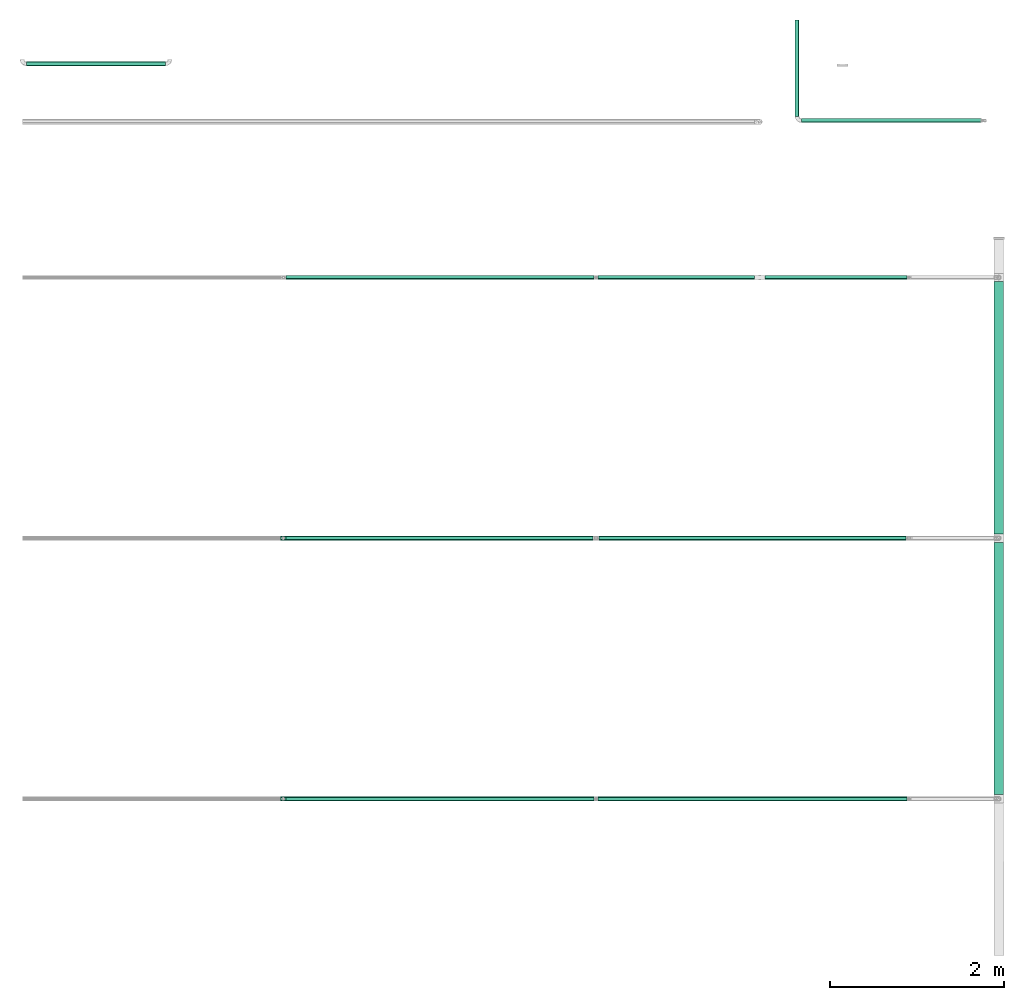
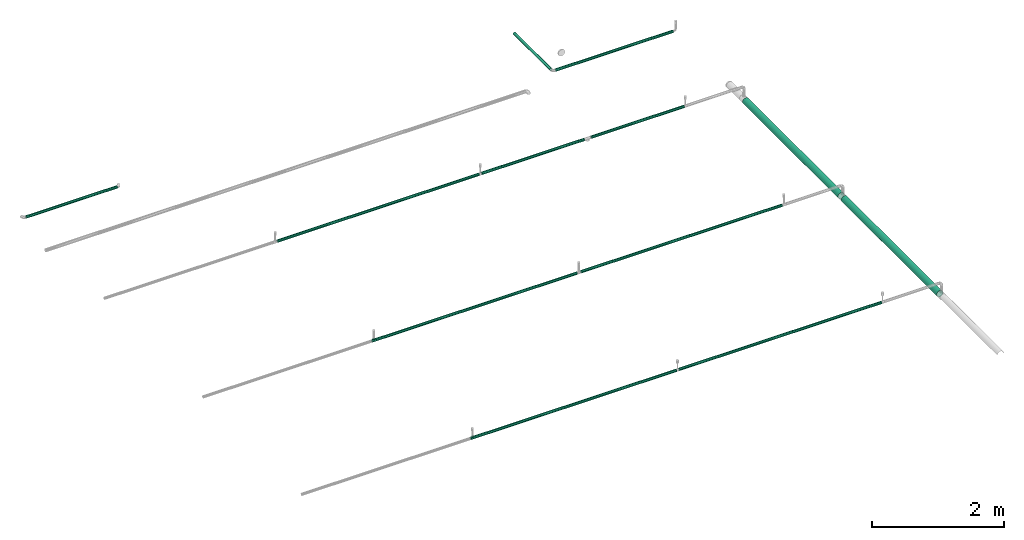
# One storey, part 1 of 14: 12 flow segments, 2 flow fittings.
"""IFC2X3 building model written with IfcOpenShell, lengths in millimetres."""

from ifc_helpers import new_model, entity, si_unit, converted_unit, derived_unit, direction, frame, origin_with_axes, origin_2d_with_axis, place, context, subcontext, project, spatial, hollow_circle, extrude, open_shell, surface_model, source, transform, mapped, type_object, element, save


model = new_model("IFC2X3")

# Units and contexts
model_context = context("Model", 3, precision=0.01, world=frame((0.0, 4.29681676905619e-09, 0.0)), true_north=direction((4.01073788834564e-13, 1.0)))
plan_context = context("Plan", 3, precision=0.01, world=frame((0.0, 4.29681676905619e-09, 0.0)), true_north=direction((4.01073788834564e-13, 1.0)))
body_context = subcontext(model_context, "Body", "Model", "MODEL_VIEW")
ifc_project = project(units=[converted_unit("PLANEANGLEUNIT", "DEGREE", entity("IfcPositiveLengthMeasure", 0.0174532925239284), si_unit("PLANEANGLEUNIT", "RADIAN"), dimensions=[0, 0, 0, 0, 0, 0, 0]), si_unit("AREAUNIT", "SQUARE_METRE"), si_unit("LENGTHUNIT", "METRE", prefix="MILLI"), si_unit("MASSUNIT", "GRAM", prefix="KILO"), si_unit("POWERUNIT", "WATT"), si_unit("PRESSUREUNIT", "PASCAL"), si_unit("FORCEUNIT", "NEWTON", prefix="KILO"), si_unit("ELECTRICVOLTAGEUNIT", "VOLT"), si_unit("ELECTRICCURRENTUNIT", "AMPERE"), si_unit("THERMODYNAMICTEMPERATUREUNIT", "DEGREE_CELSIUS"), si_unit("TIMEUNIT", "SECOND"), si_unit("VOLUMEUNIT", "CUBIC_METRE"), derived_unit("LINEARVELOCITYUNIT", [(si_unit("LENGTHUNIT", "METRE"), 1), (si_unit("TIMEUNIT", "SECOND"), -1)]), derived_unit("VOLUMETRICFLOWRATEUNIT", [(si_unit("VOLUMEUNIT", "CUBIC_METRE"), 1), (si_unit("TIMEUNIT", "SECOND"), -1)]), derived_unit("THERMALTRANSMITTANCEUNIT", [(si_unit("POWERUNIT", "WATT"), 1), (si_unit("THERMODYNAMICTEMPERATUREUNIT", "KELVIN"), -1), (si_unit("AREAUNIT", "SQUARE_METRE"), -1)]), derived_unit("SOUNDPRESSUREUNIT", [(si_unit("PRESSUREUNIT", "PASCAL"), 1)])], contexts=[model_context, plan_context])

# Site, building, storey
site_placement = place(None, frame((0.0, -4.29681676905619e-09, 0.0), z_axis=(0.0, 0.0, 1.0), x_axis=(1.0, 0.0, 0.0)))
site = spatial("IfcSite", under=ifc_project, at=site_placement, CompositionType="ELEMENT")
building_placement = place(site_placement, frame((0.0, 4.29681676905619e-09, 0.0), z_axis=(0.0, 0.0, 1.0), x_axis=(1.0, 0.0, 0.0)))
building = spatial("IfcBuilding", under=site, at=building_placement, Name="mc-building", CompositionType="ELEMENT")
storey_placement = place(building_placement, frame((0.0, 0.0, 204000.0), z_axis=(0.0, 0.0, 1.0), x_axis=(1.0, 0.0, 0.0)))
storey = spatial("IfcBuildingStorey", under=building, at=storey_placement, Name="Nivå D", CompositionType="ELEMENT", Elevation=204000.0)

# Flow fittings
pipe_fitting_type = type_object("IfcPipeFittingType", Name="magi_pipe_fe_tee_centric_90_NOR", PredefinedType="JUNCTION")
shared_shape_1 = source(origin_with_axes(), body_context, "Body", "SurfaceModel", [
    surface_model("IfcShellBasedSurfaceModel", [(-33.8, 0.0, -24.2), (-33.8, -6.26342, -23.37541), (-33.8, 6.26342, -23.37541), (-33.8, 12.1, -20.95781), (-33.8, 17.11198, -17.11198), (-33.8, 20.95781, -12.1), (-33.8, -23.37541, -6.26342), (-33.8, 23.37541, -6.26342), (-33.8, -17.11198, -17.11198), (-33.8, -20.95781, -12.1), (-33.8, -12.1, -20.95781), (-33.8, -24.2, 0.0), (-33.8, -23.37541, 6.26342), (-33.8, 20.95781, 12.1), (-33.8, 23.37541, 6.26342), (-33.8, 24.2, 0.0), (-33.8, 12.1, 20.95781), (-33.8, 17.11198, 17.11198), (-33.8, -17.11198, 17.11198), (-33.8, 6.26342, 23.37541), (-33.8, -20.95781, 12.1), (-33.8, -12.1, 20.95781), (-33.8, -6.26342, 23.37541), (-33.8, 0.0, 24.2), (33.8, 6.26342, -23.37541), (33.8, -6.26342, -23.37541), (33.8, 0.0, -24.2), (33.8, 17.11198, -17.11198), (33.8, 12.1, -20.95781), (33.8, -23.37541, -6.26342), (33.8, 20.95781, -12.1), (33.8, 23.37541, -6.26342), (33.8, -17.11198, -17.11198), (33.8, -12.1, -20.95781), (33.8, -20.95781, -12.1), (33.8, -24.2, 0.0), (33.8, 24.2, 0.0), (33.8, 23.37541, 6.26342), (33.8, 20.95781, 12.1), (33.8, -23.37541, 6.26342), (33.8, -17.11198, 17.11198), (33.8, 12.1, 20.95781), (33.8, 17.11198, 17.11198), (33.8, 6.26342, 23.37541), (33.8, -20.95781, 12.1), (33.8, -12.1, 20.95781), (33.8, 0.0, 24.2), (33.8, -6.26342, 23.37541), (15.81824, -23.45734, 5.94922), (16.9, -24.2, 0.0), (12.87025, -21.57947, 10.95293), (33.8, -19.0349, 14.60599), (8.52813, -19.30697, 14.59044), (3.03527, -17.5853, 16.6252), (-3.04044, -17.58619, 16.62425), (-8.52961, -19.30762, 14.58958), (-33.8, -19.0349, 14.60599), (-16.9, -24.2, 0.0), (-15.81885, -23.45775, 5.9476), (-12.87368, -21.58151, 10.9489), (3.03527, -17.5853, -16.6252), (33.8, -19.0349, -14.60599), (8.52813, -19.30697, -14.59044), (-8.52961, -19.30762, -14.58958), (-33.8, -19.0349, -14.60599), (12.87025, -21.57947, -10.95293), (-3.04044, -17.58619, -16.62425), (15.81824, -23.45734, -5.94922), (-12.87368, -21.58151, -10.9489), (-15.81885, -23.45775, -5.9476), (4.37404, -36.3, -16.32415), (-16.9, -36.3, 0.0), (0.0, -36.3, -16.9), (14.63583, -36.3, -8.45), (8.45, -36.3, -14.63583), (16.32415, -36.3, -4.37404), (11.9501, -36.3, -11.9501), (-11.9501, -36.3, -11.9501), (-8.45, -36.3, -14.63583), (-4.37404, -36.3, -16.32415), (-14.63583, -36.3, -8.45), (-16.32415, -36.3, -4.37404), (16.9, -36.3, 0.0), (8.45, -36.3, 14.63583), (16.32415, -36.3, 4.37404), (14.63583, -36.3, 8.45), (-8.45, -36.3, 14.63583), (11.9501, -36.3, 11.9501), (4.37404, -36.3, 16.32415), (-16.32415, -36.3, 4.37404), (-11.9501, -36.3, 11.9501), (-14.63583, -36.3, 8.45), (0.0, -36.3, 16.9), (-4.37404, -36.3, 16.32415), (-16.35943, -23.82888, 2.9738), (16.35912, -23.82867, 2.97461), (-0.00259, -17.58575, 16.62472), (16.35912, -23.82867, -2.97461), (-0.00259, -17.58575, -16.62472), (-16.35943, -23.82888, -2.9738)], [open_shell([[[0, 1, 2]], [[3, 2, 4]], [[5, 2, 6]], [[4, 2, 5]], [[7, 5, 6]], [[8, 9, 10]], [[1, 10, 9]], [[1, 9, 2]], [[9, 6, 2]], [[6, 11, 7]], [[11, 12, 7]], [[13, 14, 15]], [[13, 15, 12]], [[16, 17, 18]], [[12, 17, 13]], [[19, 16, 18]], [[20, 18, 12]], [[18, 17, 12]], [[21, 22, 18]], [[23, 18, 22]], [[18, 23, 19]], [[7, 12, 15]], [[24, 25, 26]], [[27, 24, 28]], [[29, 24, 30]], [[30, 24, 27]], [[29, 30, 31]], [[25, 32, 33]], [[32, 25, 34]], [[24, 34, 25]], [[24, 29, 34]], [[31, 35, 29]], [[31, 36, 35]], [[36, 37, 38]], [[39, 36, 38]], [[40, 38, 41]], [[41, 38, 42]], [[40, 41, 43]], [[39, 40, 44]], [[39, 38, 40]], [[45, 46, 47]], [[46, 45, 40]], [[43, 46, 40]], [[36, 39, 35]], [[35, 39, 48]], [[48, 49, 35]], [[39, 50, 48]], [[51, 40, 52]], [[52, 50, 44]], [[53, 52, 40]], [[54, 53, 21]], [[44, 50, 39]], [[55, 18, 56]], [[57, 58, 11]], [[12, 11, 58]], [[58, 59, 12]], [[55, 54, 18]], [[55, 20, 59]], [[20, 55, 56]], [[59, 20, 12]], [[18, 54, 21]], [[52, 44, 51]], [[53, 40, 45]], [[23, 47, 46]], [[22, 45, 47]], [[19, 46, 43]], [[38, 37, 14]], [[17, 41, 42]], [[13, 42, 38]], [[43, 41, 16]], [[15, 37, 36]], [[21, 45, 22]], [[22, 47, 23]], [[19, 23, 46]], [[43, 16, 19]], [[16, 41, 17]], [[13, 17, 42]], [[14, 13, 38]], [[37, 15, 14]], [[45, 21, 53]], [[5, 31, 30]], [[7, 36, 31]], [[4, 30, 27]], [[26, 25, 1]], [[2, 28, 24]], [[0, 24, 26]], [[27, 28, 3]], [[10, 25, 33]], [[15, 36, 7]], [[7, 31, 5]], [[4, 5, 30]], [[27, 3, 4]], [[3, 28, 2]], [[0, 2, 24]], [[1, 0, 26]], [[25, 10, 1]], [[33, 60, 10]], [[61, 34, 62]], [[63, 9, 64]], [[62, 60, 32]], [[34, 65, 62]], [[66, 10, 60]], [[29, 35, 67]], [[67, 65, 29]], [[49, 67, 35]], [[29, 65, 34]], [[66, 63, 8]], [[62, 32, 61]], [[64, 8, 63]], [[63, 68, 9]], [[8, 10, 66]], [[68, 69, 6]], [[69, 11, 6]], [[11, 69, 57]], [[68, 6, 9]], [[60, 33, 32]], [[70, 71, 72]], [[73, 70, 74]], [[73, 75, 70]], [[73, 74, 76]], [[71, 70, 75]], [[72, 77, 78]], [[78, 79, 72]], [[80, 71, 81]], [[77, 72, 80]], [[71, 80, 72]], [[75, 82, 71]], [[83, 82, 84]], [[83, 84, 85]], [[86, 71, 83]], [[83, 85, 87]], [[86, 83, 88]], [[89, 90, 91]], [[90, 89, 86]], [[86, 92, 93]], [[89, 71, 86]], [[88, 92, 86]], [[83, 71, 82]], [[89, 94, 71]], [[59, 91, 90]], [[89, 91, 58]], [[90, 86, 55]], [[89, 58, 94]], [[94, 57, 71]], [[58, 91, 59]], [[95, 48, 84]], [[55, 93, 54]], [[55, 59, 90]], [[92, 53, 96]], [[55, 86, 93]], [[53, 92, 88]], [[83, 52, 88]], [[87, 85, 50]], [[87, 52, 83]], [[48, 85, 84]], [[87, 50, 52]], [[52, 53, 88]], [[82, 95, 84]], [[48, 50, 85]], [[95, 82, 49]], [[92, 54, 93]], [[96, 54, 92]], [[75, 97, 82]], [[65, 73, 76]], [[75, 73, 67]], [[76, 74, 62]], [[97, 49, 82]], [[67, 73, 65]], [[62, 70, 60]], [[62, 65, 76]], [[72, 66, 98]], [[62, 74, 70]], [[99, 71, 57]], [[99, 69, 81]], [[75, 67, 97]], [[79, 66, 72]], [[69, 80, 81]], [[77, 80, 68]], [[72, 60, 70]], [[79, 63, 66]], [[63, 79, 78]], [[78, 77, 63]], [[63, 77, 68]], [[68, 80, 69]], [[71, 99, 81]], [[98, 60, 72]]])]),
])
for number, where, z_axis, x_axis, name in (
    (1, (601000.0, 693802.46783, 6129.32644999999), (0.0, -1.0, 0.0), (-1.0, 0.0, 0.0), "magi_pipe_fe_tee_centric_90_NOR"),
    (2, (601000.0, 690802.46783, 6140.0), (0.0, -1.0, 0.0), (-1.0, 0.0, 0.0), "magi_pipe_fe_tee_centric_90_NOR"),
):
    element("IfcFlowFitting", number, at=place(storey_placement, frame(where, z_axis=z_axis, x_axis=x_axis)), inside=storey, type_object=pipe_fitting_type, Name=name, context=body_context, shape_type="MappedRepresentation", body=[
        mapped(shared_shape_1, transform((0.0, 0.0, 0.0), scale=1.0)),
    ])

# Flow segments
pipe_segment_type = type_object("IfcPipeSegmentType", Name="Stålrør normaltykke", PredefinedType="RIGIDSEGMENT")
shared_shape_2 = source(origin_with_axes(), body_context, "Body", "SweptSolid", [
    extrude(hollow_circle(Radius=24.1, WallThickness=2.0, at=origin_2d_with_axis()), frame((0.0, 0.0, 0.0), z_axis=(1.0, 0.0, 0.0), x_axis=(0.0, 1.0, 0.0)), (0.0, 0.0, 1.0), 1603.2),
])
flow_segment_1_placement = place(storey_placement, frame((598042.2, 699262.46783, 6142.65517000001), z_axis=(0.0, 0.0, 1.0), x_axis=(1.0, 0.0, 0.0)))
element("IfcFlowSegment", 3, at=flow_segment_1_placement, inside=storey, type_object=pipe_segment_type, Name="Stålrør normaltykke", context=body_context, shape_type="MappedRepresentation", body=[
    mapped(shared_shape_2, transform((0.0, 0.0, 0.0), scale=1.0)),
])
shared_shape_3 = source(origin_with_axes(), body_context, "Body", "SweptSolid", [
    extrude(hollow_circle(Radius=24.1, WallThickness=2.0, at=origin_2d_with_axis()), frame((0.0, 0.0, 0.0), z_axis=(1.0, 0.0, 0.0), x_axis=(0.0, 1.0, 0.0)), (0.0, 0.0, 1.0), 1802.3),
])
flow_segment_2_placement = place(storey_placement, frame((606423.67576, 696802.46783, 6140.0), z_axis=(0.0, 0.0, 1.0), x_axis=(-1.0, 0.0, 0.0)))
element("IfcFlowSegment", 4, at=flow_segment_2_placement, inside=storey, type_object=pipe_segment_type, Name="Stålrør normaltykke", context=body_context, shape_type="MappedRepresentation", body=[
    mapped(shared_shape_3, transform((0.0, 0.0, 0.0), scale=1.0)),
])
shared_shape_4 = source(origin_with_axes(), body_context, "Body", "SweptSolid", [
    extrude(hollow_circle(Radius=24.1, WallThickness=2.0, at=origin_2d_with_axis()), frame((0.0, 0.0, 0.0), z_axis=(1.0, 0.0, 0.0), x_axis=(0.0, 1.0, 0.0)), (0.0, 0.0, 1.0), 3544.8),
])
for number, where, z_axis, x_axis in (
    (5, (604578.6, 696802.46783, 6140.0), (0.0, 0.0, 1.0), (-1.0, 0.0, 0.0)),
    (6, (604578.6, 690802.46783, 6140.0), (0.0, 0.0, 1.0), (-1.0, 0.0, 0.0)),
):
    element("IfcFlowSegment", number, at=place(storey_placement, frame(where, z_axis=z_axis, x_axis=x_axis)), inside=storey, type_object=pipe_segment_type, Name="Stålrør normaltykke", context=body_context, shape_type="MappedRepresentation", body=[
        mapped(shared_shape_4, transform((0.0, 0.0, 0.0), scale=1.0)),
    ])
shared_shape_5 = source(origin_with_axes(), body_context, "Body", "SweptSolid", [
    extrude(hollow_circle(Radius=24.1, WallThickness=2.0, at=origin_2d_with_axis()), frame((0.0, 0.0, 0.0), z_axis=(1.0, 0.0, 0.0), x_axis=(0.0, 1.0, 0.0)), (0.0, 0.0, 1.0), 3532.4),
])
for number, where, z_axis, x_axis in (
    (7, (608166.2, 693802.46783, 6129.32644999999), (0.0, 0.0, 1.0), (-1.0, 0.0, 0.0)),
    (8, (604566.2, 693802.46783, 6129.32644999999), (0.0, 0.0, 1.0), (-1.0, 0.0, 0.0)),
):
    element("IfcFlowSegment", number, at=place(storey_placement, frame(where, z_axis=z_axis, x_axis=x_axis)), inside=storey, type_object=pipe_segment_type, Name="Stålrør normaltykke", context=body_context, shape_type="MappedRepresentation", body=[
        mapped(shared_shape_5, transform((0.0, 0.0, 0.0), scale=1.0)),
    ])
shared_shape_6 = source(origin_with_axes(), body_context, "Body", "SweptSolid", [
    extrude(hollow_circle(Radius=24.1, WallThickness=2.0, at=origin_2d_with_axis()), frame((0.0, 0.0, 0.0), z_axis=(1.0, 0.0, 0.0), x_axis=(0.0, 1.0, 0.0)), (0.0, 0.0, 1.0), 3557.2),
])
flow_segment_3_placement = place(storey_placement, frame((608178.6, 690802.46783, 6140.0), z_axis=(0.0, 0.0, 1.0), x_axis=(-1.0, 0.0, 0.0)))
element("IfcFlowSegment", 9, at=flow_segment_3_placement, inside=storey, type_object=pipe_segment_type, Name="Stålrør normaltykke", context=body_context, shape_type="MappedRepresentation", body=[
    mapped(shared_shape_6, transform((0.0, 0.0, 0.0), scale=1.0)),
])
shared_shape_7 = source(origin_with_axes(), body_context, "Body", "SweptSolid", [
    extrude(hollow_circle(Radius=57.1, WallThickness=2.0, at=origin_2d_with_axis()), frame((0.0, 0.0, 0.0), z_axis=(1.0, 0.0, 0.0), x_axis=(0.0, 1.0, 0.0)), (0.0, 0.0, 1.0), 2903.2),
])
for number, where, z_axis, x_axis in (
    (10, (609234.47302, 693754.06783, 5902.60000000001), (0.0, 0.0, 1.0), (0.0, -1.0, 0.0)),
    (11, (609234.47302, 696754.06783, 5902.60000000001), (0.0, 0.0, 1.0), (0.0, -1.0, 0.0)),
):
    element("IfcFlowSegment", number, at=place(storey_placement, frame(where, z_axis=z_axis, x_axis=x_axis)), inside=storey, type_object=pipe_segment_type, Name="Stålrør normaltykke", context=body_context, shape_type="MappedRepresentation", body=[
        mapped(shared_shape_7, transform((0.0, 0.0, 0.0), scale=1.0)),
    ])
shared_shape_8 = source(origin_with_axes(), body_context, "Body", "SweptSolid", [
    extrude(hollow_circle(Radius=24.1, WallThickness=2.0, at=origin_2d_with_axis()), frame((0.0, 0.0, 0.0), z_axis=(1.0, 0.0, 0.0), x_axis=(0.0, 1.0, 0.0)), (0.0, 0.0, 1.0), 1109.0),
])
flow_segment_4_placement = place(storey_placement, frame((606912.81082, 699766.16783, 6142.70000000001), z_axis=(-9.999999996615e-07, -2.5999999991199e-05, 0.9999999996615), x_axis=(-1.999999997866e-12, -0.999999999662, -2.5999999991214e-05)))
element("IfcFlowSegment", 12, at=flow_segment_4_placement, inside=storey, type_object=pipe_segment_type, Name="Stålrør normaltykke", context=body_context, shape_type="MappedRepresentation", body=[
    mapped(shared_shape_8, transform((0.0, 0.0, 0.0), scale=1.0)),
])
shared_shape_9 = source(origin_with_axes(), body_context, "Body", "SweptSolid", [
    extrude(hollow_circle(Radius=24.1, WallThickness=2.0, at=origin_2d_with_axis()), frame((0.0, 0.0, 0.0), z_axis=(1.0, 0.0, 0.0), x_axis=(0.0, 1.0, 0.0)), (0.0, 0.0, 1.0), 2066.1),
])
flow_segment_5_placement = place(storey_placement, frame((606961.21082, 698608.74775, 6142.66949), z_axis=(0.0, 0.0, 1.0), x_axis=(1.0, 0.0, 0.0)))
element("IfcFlowSegment", 13, at=flow_segment_5_placement, inside=storey, type_object=pipe_segment_type, Name="Stålrør normaltykke", context=body_context, shape_type="MappedRepresentation", body=[
    mapped(shared_shape_9, transform((0.0, 0.0, 0.0), scale=1.0)),
])
shared_shape_10 = source(origin_with_axes(), body_context, "Body", "SweptSolid", [
    extrude(hollow_circle(Radius=24.1, WallThickness=2.0, at=origin_2d_with_axis()), frame((0.0, 0.0, 0.0), z_axis=(1.0, 0.0, 0.0), x_axis=(0.0, 1.0, 0.0)), (0.0, 0.0, 1.0), 1634.1),
])
flow_segment_6_placement = place(storey_placement, frame((608178.6, 696802.46783, 6140.0), z_axis=(0.0, 0.0, 1.0), x_axis=(-1.0, 0.0, 0.0)))
element("IfcFlowSegment", 14, at=flow_segment_6_placement, inside=storey, type_object=pipe_segment_type, Name="Stålrør normaltykke", context=body_context, shape_type="MappedRepresentation", body=[
    mapped(shared_shape_10, transform((0.0, 0.0, 0.0), scale=1.0)),
])

save(model, "model.ifc")
